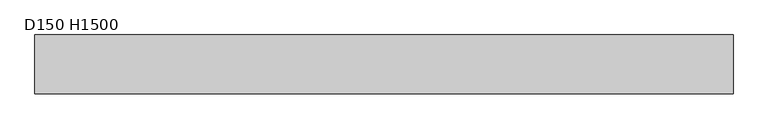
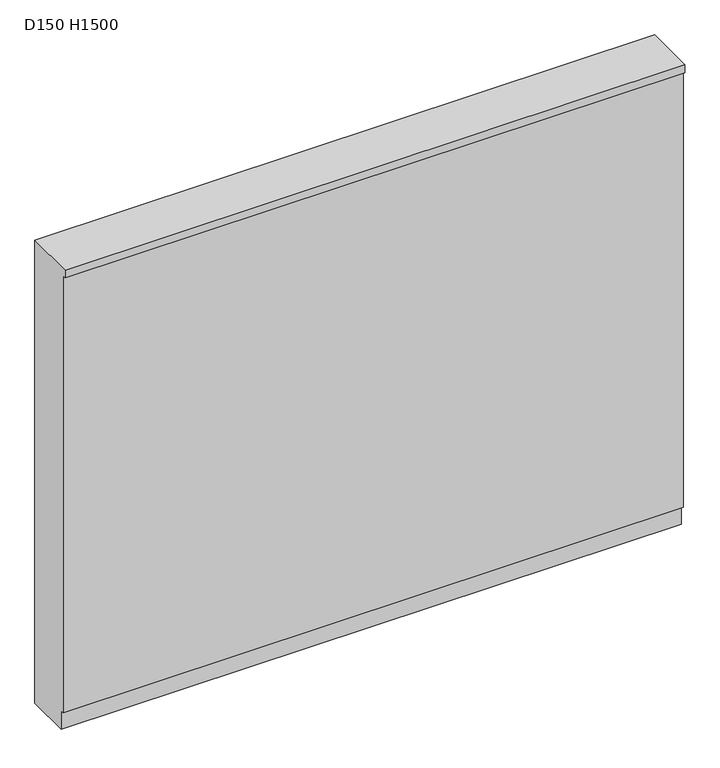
"""IFC4 building model written with IfcOpenShell, lengths in millimetres: proxy geometry, r ライニング : D150 H1500."""

import ifcopenshell
import ifcopenshell.guid

model = None  # the IFC model being written
_history = None  # IfcOwnerHistory: only IFC2X3 demands one
_inside = {}  # id of a spatial element -> (the spatial element, [elements in it])
_under = {}  # id of a project, library or spatial element -> (it, [spatial elements below it])
_declared = {}  # id of a project -> (the project, [libraries it declares])
_typed = {}  # id of a type object -> (the type object, [elements of that type])
_made_of = {}  # id of a material, layer set ... -> (it, [elements and type objects made of it])


def new_model(schema):
    """Start an empty IFC model of exactly this schema.

    Asked for "IFC4X3", IfcOpenShell would pick the latest addendum, in which some entities
    have other attributes; the version numbers below select the first issue.
    IFC2X3 requires an IfcOwnerHistory on every rooted entity: one is made here for all.
    """
    global model, _history
    if schema == "IFC4X3":
        model = ifcopenshell.file(schema_version=(4, 3, 0, 0))
    else:
        model = ifcopenshell.file(schema=schema)
    _inside.clear()
    _under.clear()
    _declared.clear()
    _typed.clear()
    _made_of.clear()
    _history = None
    if model.schema == "IFC2X3":
        org = make("IfcOrganization", Name="unknown")
        user = make(
            "IfcPersonAndOrganization",
            ThePerson=make("IfcPerson", FamilyName="unknown"),
            TheOrganization=org,
        )
        app = make(
            "IfcApplication",
            ApplicationDeveloper=org,
            Version="unknown",
            ApplicationFullName="unknown",
            ApplicationIdentifier="unknown",
        )
        _history = make(
            "IfcOwnerHistory",
            OwningUser=user,
            OwningApplication=app,
            ChangeAction="ADDED",
            CreationDate=0,
        )
    return model


def make(cls, **values):
    """One entity of the class cls with the attributes given. An attribute that is None is left unset."""
    return model.create_entity(
        cls, **{name: value for name, value in values.items() if value is not None}
    )


def rooted(cls, **values):
    """An entity with a GlobalId (a new one), such as an element, a storey or a relation."""
    return make(cls, GlobalId=ifcopenshell.guid.new(), OwnerHistory=_history, **values)


def si_unit(unit_type, name, prefix=None):
    """IfcSIUnit, for example si_unit("LENGTHUNIT", "METRE", prefix="MILLI")."""
    return make("IfcSIUnit", UnitType=unit_type, Prefix=prefix, Name=name)


def assignment(units):
    """IfcUnitAssignment: the units of a project."""
    return None if units is None else make("IfcUnitAssignment", Units=units)


def point(xyz):
    """IfcCartesianPoint."""
    return None if xyz is None else make("IfcCartesianPoint", Coordinates=xyz)


def direction(xyz):
    """IfcDirection."""
    return None if xyz is None else make("IfcDirection", DirectionRatios=xyz)


def frame(location, z_axis=None, x_axis=None):
    """IfcAxis2Placement3D, a coordinate frame: its origin and axes. An axis left out is left unset."""
    return make(
        "IfcAxis2Placement3D",
        Location=point(location),
        Axis=direction(z_axis),
        RefDirection=direction(x_axis),
    )


def origin():
    """The frame at (0, 0, 0) with its axes left unset."""
    return frame((0.0, 0.0, 0.0))


def place(relative_to, where):
    """IfcLocalPlacement: puts the frame where relative to a parent placement (None: the world)."""
    return make(
        "IfcLocalPlacement", PlacementRelTo=relative_to, RelativePlacement=where
    )


def context(
    kind, dimensions, precision=None, world=None, true_north=None, identifier=None
):
    """IfcGeometricRepresentationContext, for example the 3D "Model" context."""
    return make(
        "IfcGeometricRepresentationContext",
        ContextIdentifier=identifier,
        ContextType=kind,
        CoordinateSpaceDimension=dimensions,
        Precision=precision,
        WorldCoordinateSystem=world,
        TrueNorth=true_north,
    )


def project(units=None, contexts=None):
    """IfcProject with its units and contexts."""
    return rooted(
        "IfcProject",
        Name="project",
        RepresentationContexts=contexts,
        UnitsInContext=assignment(units),
    )


def spatial(cls, under=None, at=None, **own):
    """A site, building, storey or space (cls), placed at a placement, below another one or the project."""
    s = rooted(cls, ObjectPlacement=at, **own)
    if under is not None:
        _under.setdefault(under.id(), (under, []))[1].append(s)
    return s


def polyline(points):
    """IfcPolyline through the points."""
    return make("IfcPolyline", Points=[point(p) for p in points])


def outline(outer, holes=None, kind="AREA"):
    """IfcArbitraryClosedProfileDef: a profile drawn as a closed curve; with holes, ...WithVoids."""
    if holes is None:
        return make("IfcArbitraryClosedProfileDef", ProfileType=kind, OuterCurve=outer)
    return make(
        "IfcArbitraryProfileDefWithVoids",
        ProfileType=kind,
        OuterCurve=outer,
        InnerCurves=holes,
    )


def extrude(swept, where, along, depth):
    """IfcExtrudedAreaSolid: the profile swept, set in the frame where, extruded along a direction by depth."""
    return make(
        "IfcExtrudedAreaSolid",
        SweptArea=swept,
        Position=where,
        ExtrudedDirection=direction(along),
        Depth=depth,
    )


def shape(context_of_items, identifier, shape_type, items):
    """IfcShapeRepresentation: the items that make up one representation, for example the "Body"."""
    return make(
        "IfcShapeRepresentation",
        ContextOfItems=context_of_items,
        RepresentationIdentifier=identifier,
        RepresentationType=shape_type,
        Items=items,
    )


def source(mapping_origin, context_of_items, identifier, shape_type, items):
    """IfcRepresentationMap: a shape defined once, which mapped items show again and again."""
    return make(
        "IfcRepresentationMap",
        MappingOrigin=mapping_origin,
        MappedRepresentation=shape(context_of_items, identifier, shape_type, items),
    )


def transform(
    local_origin,
    x_axis=None,
    y_axis=None,
    z_axis=None,
    scale=None,
    scale2=None,
    scale3=None,
    uniform=True,
):
    """IfcCartesianTransformationOperator3D, or its non-uniform kind. x_axis, y_axis, z_axis: its Axis1, 2, 3."""
    if uniform:
        return make(
            "IfcCartesianTransformationOperator3D",
            Axis1=direction(x_axis),
            Axis2=direction(y_axis),
            LocalOrigin=point(local_origin),
            Scale=scale,
            Axis3=direction(z_axis),
        )
    return make(
        "IfcCartesianTransformationOperator3DnonUniform",
        Axis1=direction(x_axis),
        Axis2=direction(y_axis),
        LocalOrigin=point(local_origin),
        Scale=scale,
        Axis3=direction(z_axis),
        Scale2=scale2,
        Scale3=scale3,
    )


def mapped(mapping_source, mapping_target):
    """IfcMappedItem: shows the shape of a source again, moved by a transform."""
    return make(
        "IfcMappedItem", MappingSource=mapping_source, MappingTarget=mapping_target
    )


def made_of(thing, what):
    """Note that an element or type object is made of a material, layer set ...; save() writes the relation."""
    if what is not None:
        _made_of.setdefault(what.id(), (what, []))[1].append(thing)
    return thing


def element(
    cls,
    number,
    at=None,
    inside=None,
    cuts=None,
    type_object=None,
    material=None,
    context=None,
    identifier="Body",
    shape_type=None,
    held_by="IfcProductDefinitionShape",
    body=None,
    shapes=None,
    **own,
):
    """One element of the class cls, such as IfcWall. Its Tag is "e" and its number.

    at: its placement. inside: the storey or other place that contains it. cuts: it is an
    opening in that element (IfcRelVoidsElement). A single representation is given by context,
    identifier, shape_type and body (its items); several are given by shapes. held_by: the class
    of the entity that holds the representations. save() writes the other relations.
    """
    e = rooted(cls, Tag="e%d" % number, ObjectPlacement=at, **own)
    if body is not None:
        shapes = [shape(context, identifier, shape_type, body)]
    if shapes is not None:
        e.Representation = make(held_by, Representations=shapes)
    if inside is not None:
        _inside.setdefault(inside.id(), (inside, []))[1].append(e)
    if cuts is not None:
        rooted(
            "IfcRelVoidsElement", RelatingBuildingElement=cuts, RelatedOpeningElement=e
        )
    if type_object is not None:
        _typed.setdefault(type_object.id(), (type_object, []))[1].append(e)
    return made_of(e, material)


def aggregate(whole, parts):
    """IfcRelAggregates: a whole, such as a stair, and the parts it consists of."""
    return rooted("IfcRelAggregates", RelatingObject=whole, RelatedObjects=parts)


def save(model, path):
    """Write the relations noted so far, then the file.

    IfcRelAggregates (storeys below a building ...), IfcRelContainedInSpatialStructure (elements
    in a storey), IfcRelDefinesByType, IfcRelAssociatesMaterial and IfcRelDeclares: one each for
    every whole, place, type object, material and project.
    """
    for whole, parts in _under.values():
        aggregate(whole, parts)
    for where, things in _inside.values():
        rooted(
            "IfcRelContainedInSpatialStructure",
            RelatedElements=things,
            RelatingStructure=where,
        )
    for kind, things in _typed.values():
        rooted("IfcRelDefinesByType", RelatedObjects=things, RelatingType=kind)
    for what, things in _made_of.values():
        rooted("IfcRelAssociatesMaterial", RelatedObjects=things, RelatingMaterial=what)
    for by, libraries in _declared.values():
        rooted("IfcRelDeclares", RelatingContext=by, RelatedDefinitions=libraries)
    model.write(path)


def d150_h1500_9903e80e(model_context):
    return source(origin(), model_context, "Body", "SweptSolid", [
        extrude(outline(polyline([(-160.0, 1475.0), (-160.0, 1500.0), (0.0, 1500.0), (0.0, 0.0), (-140.0, 0.0), (-140.0, 60.0), (-150.0, 60.0), (-150.0, 1475.0), (-160.0, 1475.0)])), frame((0.0, 0.0, 0.0), z_axis=(1.0, 0.0, 0.0), x_axis=(0.0, 1.0, 0.0)), (0.0, 0.0, 1.0), 1900.0),
    ])


if __name__ == "__main__":
    model = new_model("IFC4")
    model_context = context("Model", 3, world=origin())
    ifc_project = project(units=[si_unit("LENGTHUNIT", "METRE", prefix="MILLI")], contexts=[model_context])
    site = spatial("IfcSite", under=ifc_project)
    building = spatial("IfcBuilding", under=site)
    placement = place(None, origin())
    d150_h1500_shape = d150_h1500_9903e80e(model_context)
    element("IfcBuildingElementProxy", 1, Name="r ライニング : D150 H1500", ObjectType="r ライニング : D150 H1500", at=placement, inside=building, context=model_context, shape_type="MappedRepresentation", body=[
        mapped(d150_h1500_shape, transform((0.0, 0.0, 0.0), x_axis=(1.0, 0.0, 0.0), y_axis=(0.0, 1.0, 0.0), z_axis=(0.0, 0.0, 1.0))),
    ])
    save(model, "model.ifc")
